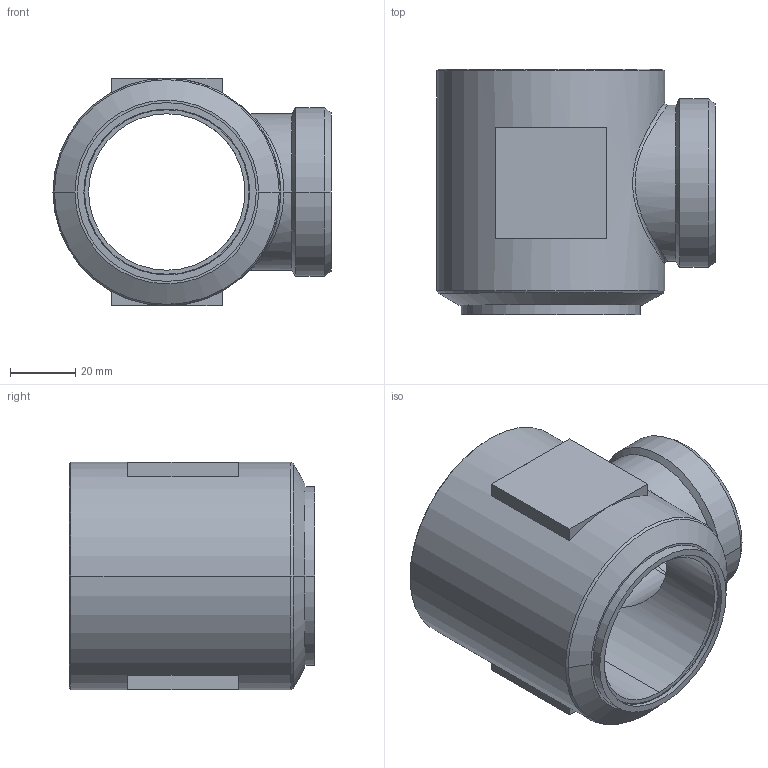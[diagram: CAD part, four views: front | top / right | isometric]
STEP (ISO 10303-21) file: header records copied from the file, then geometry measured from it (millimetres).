
FILE_DESCRIPTION((''),'2;1');
FILE_NAME('101313.stp','2007-10-30T15:40:22',(''),(''),'AutoCAD STEP 2000i','AutoCAD 2000i',', , ');
FILE_SCHEMA(('CONFIG_CONTROL_DESIGN'));
Length unit declared in the file: millimetre
Products named in the file (2): 101313.0; 1094#0
Assembly tree (1 placements, depth 2):
  101313.0
    1094#0
Bounding box: 85.5 x 75.5 x 70 mm (x, y, z)
Volume: 150825.5 mm3; surface area: 36518.4 mm2
Topology: 1 solids, 1 shells, 55 faces, 127 edges, 79 vertices
Faces by surface type: plane 20, cylinder 16, cone 14, bspline 5
Entity records: 2134 total; most frequent: CARTESIAN_POINT 749, DIRECTION 285, ORIENTED_EDGE 254, EDGE_CURVE 127, AXIS2_PLACEMENT_3D 115, VERTEX_POINT 79, EDGE_LOOP 64, CIRCLE 63
